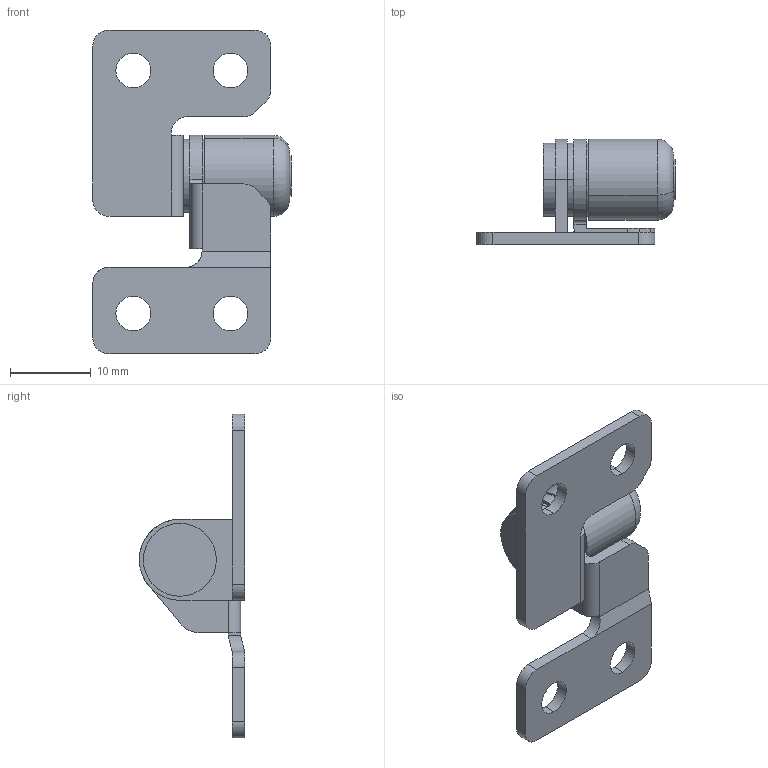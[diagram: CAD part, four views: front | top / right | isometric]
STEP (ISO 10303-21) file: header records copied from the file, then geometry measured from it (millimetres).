
FILE_DESCRIPTION (( 'STEP AP214' ), '1' );
FILE_NAME ('DEH-T20S-1C.STEP', '2016-02-07T11:40:03', ( '' ), ( '' ), 'SwSTEP 2.0', 'SolidWorks 2012', '' );
FILE_SCHEMA (( 'AUTOMOTIVE_DESIGN' ));
Length unit declared in the file: millimetre
Products named in the file (5): DEH-T20S-3P; ナットM4; DEH-T20S-1B; DEH-T20S-1A; DEH-T20S-1C
Assembly tree (4 placements, depth 2):
  DEH-T20S-1C
    DEH-T20S-1A
    DEH-T20S-1B
    ナットM4
    DEH-T20S-3P
Bounding box: 24.5 x 13 x 40 mm (x, y, z)
Volume: 2012.4 mm3; surface area: 3333 mm2
Topology: 4 solids, 4 shells, 134 faces, 323 edges, 206 vertices
Faces by surface type: cylinder 58, plane 54, cone 14, torus 8
Entity records: 4206 total; most frequent: CARTESIAN_POINT 783, DIRECTION 723, ORIENTED_EDGE 646, EDGE_CURVE 323, AXIS2_PLACEMENT_3D 286, VERTEX_POINT 206, EDGE_LOOP 155, LINE 151
